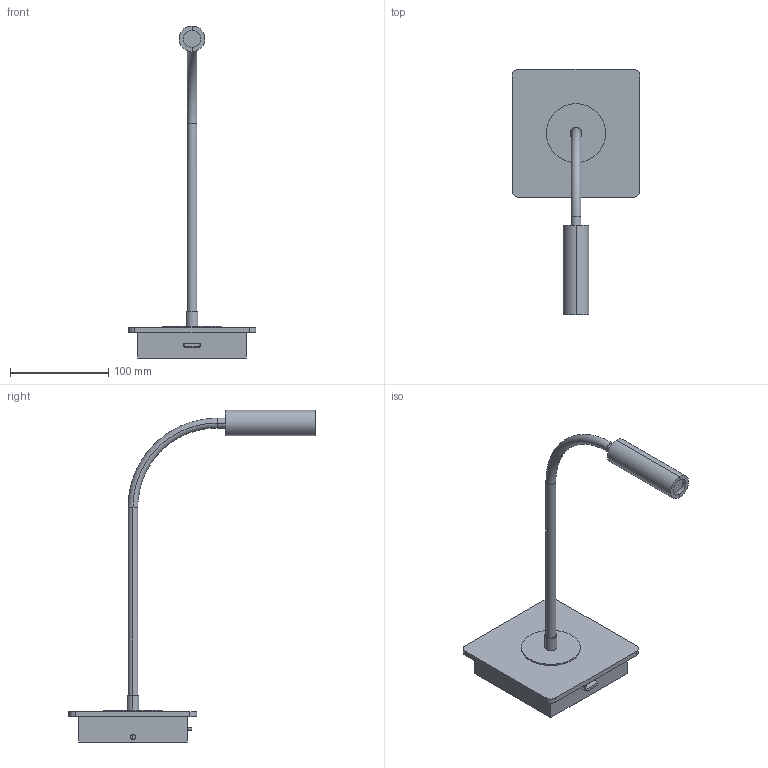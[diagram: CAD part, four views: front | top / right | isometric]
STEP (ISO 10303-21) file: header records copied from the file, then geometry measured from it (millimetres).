
FILE_DESCRIPTION(/* description */ (''),/* implementation_level */ '2;1');
FILE_NAME(/* name */ '20060.step',/* time_stamp */ '2024-06-25T17:29:05+02:00',/* author */ ('RenataManzini'),/* organization */ (''),/* preprocessor_version */ 'ST-DEVELOPER v20',/* originating_system */ 'AutoCAD Mechanical',/* authorisation */ '');
FILE_SCHEMA (('AUTOMOTIVE_DESIGN { 1 0 10303 214 3 1 1 }'));
Length unit declared in the file: millimetre
Products named in the file (2): Product; MOOD_LECTOR - LESER-492735-_3D_
Assembly tree (1 placements, depth 2):
  Product
    MOOD_LECTOR - LESER-492735-_3D_
Bounding box: 130 x 250.09 x 337.5 mm (x, y, z)
Volume: 189996.7 mm3; surface area: 107399.4 mm2
Topology: 9 solids, 11 shells, 118 faces, 261 edges, 165 vertices
Faces by surface type: plane 68, cylinder 42, torus 6, bspline 2
Entity records: 4120 total; most frequent: CARTESIAN_POINT 1401, DIRECTION 568, ORIENTED_EDGE 512, EDGE_CURVE 258, AXIS2_PLACEMENT_3D 204, LINE 160, VECTOR 160, VERTEX_POINT 160
